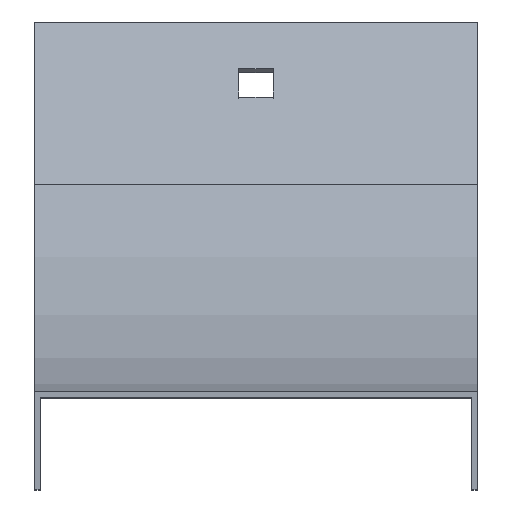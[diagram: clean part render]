
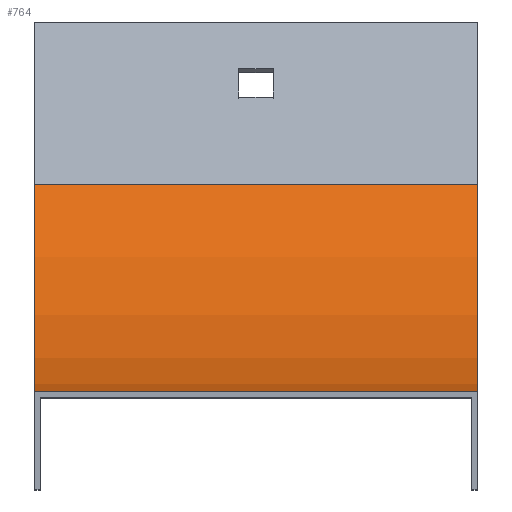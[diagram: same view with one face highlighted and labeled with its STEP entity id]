
A CAD part, top view. The second image highlights one B-rep face of the part: STEP entity #764.
In plain terms, the highlighted cylindrical face has radius 124 mm (diameter 248 mm), a partial arc.
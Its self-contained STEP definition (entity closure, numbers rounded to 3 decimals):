
#5 = DIRECTION ( 'NONE',  ( -1., 0., 0. ) ) ;
#34 = CARTESIAN_POINT ( 'NONE',  ( -38.5, 124., -40. ) ) ;
#96 = DIRECTION ( 'NONE',  ( -1., 0., 0. ) ) ;
#100 = CARTESIAN_POINT ( 'NONE',  ( -38.5, 0., -40. ) ) ;
#111 = CARTESIAN_POINT ( 'NONE',  ( 38.5, 0., -40. ) ) ;
#129 = AXIS2_PLACEMENT_3D ( 'NONE', #34, #5, #527 ) ;
#147 = DIRECTION ( 'NONE',  ( -1., 0., 0. ) ) ;
#207 = VERTEX_POINT ( 'NONE', #332 ) ;
#214 = ORIENTED_EDGE ( 'NONE', *, *, #747, .T. ) ;
#242 = ORIENTED_EDGE ( 'NONE', *, *, #854, .F. ) ;
#246 = LINE ( 'NONE', #111, #639 ) ;
#291 = EDGE_CURVE ( 'NONE', #741, #207, #490, .T. ) ;
#305 = FACE_OUTER_BOUND ( 'NONE', #755, .T. ) ;
#322 = DIRECTION ( 'NONE',  ( 0., 0., 1. ) ) ;
#332 = CARTESIAN_POINT ( 'NONE',  ( 38.5, 0., -40. ) ) ;
#352 = AXIS2_PLACEMENT_3D ( 'NONE', #388, #374, #322 ) ;
#353 = CARTESIAN_POINT ( 'NONE',  ( -38.5, 36.319, -127.681 ) ) ;
#363 = VERTEX_POINT ( 'NONE', #100 ) ;
#374 = DIRECTION ( 'NONE',  ( -1., 0., 0. ) ) ;
#388 = CARTESIAN_POINT ( 'NONE',  ( 38.5, 124., -40. ) ) ;
#418 = ORIENTED_EDGE ( 'NONE', *, *, #475, .T. ) ;
#440 = CARTESIAN_POINT ( 'NONE',  ( 38.5, 124., -40. ) ) ;
#475 = EDGE_CURVE ( 'NONE', #652, #363, #627, .T. ) ;
#481 = CARTESIAN_POINT ( 'NONE',  ( 38.5, 36.319, -127.681 ) ) ;
#490 = CIRCLE ( 'NONE', #542, 124. ) ;
#527 = DIRECTION ( 'NONE',  ( 0., 0., -1. ) ) ;
#542 = AXIS2_PLACEMENT_3D ( 'NONE', #440, #96, #811 ) ;
#581 = DIRECTION ( 'NONE',  ( -1., 0., 0. ) ) ;
#627 = CIRCLE ( 'NONE', #129, 124. ) ;
#639 = VECTOR ( 'NONE', #581, 1000. ) ;
#652 = VERTEX_POINT ( 'NONE', #353 ) ;
#684 = ORIENTED_EDGE ( 'NONE', *, *, #291, .F. ) ;
#733 = LINE ( 'NONE', #481, #830 ) ;
#741 = VERTEX_POINT ( 'NONE', #823 ) ;
#747 = EDGE_CURVE ( 'NONE', #741, #652, #733, .T. ) ;
#755 = EDGE_LOOP ( 'NONE', ( #418, #242, #684, #214 ) ) ;
#764 = ADVANCED_FACE ( 'NONE', ( #305 ), #770, .F. ) ;
#770 = CYLINDRICAL_SURFACE ( 'NONE', #352, 124. ) ;
#811 = DIRECTION ( 'NONE',  ( 0., 0., -1. ) ) ;
#823 = CARTESIAN_POINT ( 'NONE',  ( 38.5, 36.319, -127.681 ) ) ;
#830 = VECTOR ( 'NONE', #147, 1000. ) ;
#854 = EDGE_CURVE ( 'NONE', #207, #363, #246, .T. ) ;
